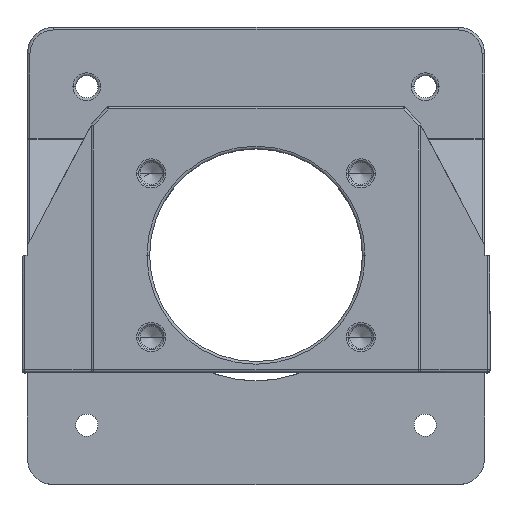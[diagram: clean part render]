
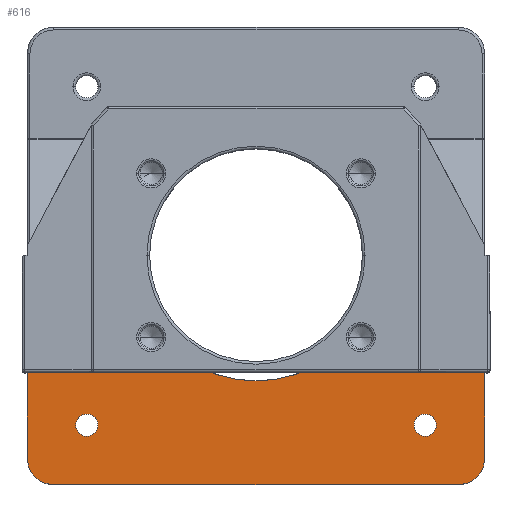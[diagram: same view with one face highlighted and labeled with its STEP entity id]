
A CAD part, top view. The second image highlights one B-rep face of the part: STEP entity #616.
In plain terms, the highlighted planar face has unit normal (0, 0, 1).
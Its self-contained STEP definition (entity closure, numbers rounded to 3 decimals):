
#142 = VERTEX_POINT ( 'NONE', #4250 ) ;
#171 = CARTESIAN_POINT ( 'NONE',  ( 43.5, -21., 5. ) ) ;
#198 = CARTESIAN_POINT ( 'NONE',  ( 31.82, -31.82, 5. ) ) ;
#214 = AXIS2_PLACEMENT_3D ( 'NONE', #5607, #2277, #6150 ) ;
#237 = CARTESIAN_POINT ( 'NONE',  ( -43., -21., 5. ) ) ;
#312 = DIRECTION ( 'NONE',  ( 0., 0., -1. ) ) ;
#339 = CARTESIAN_POINT ( 'NONE',  ( -29.72, -31.82, 5. ) ) ;
#520 = VERTEX_POINT ( 'NONE', #735 ) ;
#534 = CARTESIAN_POINT ( 'NONE',  ( -44., -22., 5. ) ) ;
#552 = LINE ( 'NONE', #3368, #3509 ) ;
#575 = CIRCLE ( 'NONE', #4833, 2.1 ) ;
#591 = CARTESIAN_POINT ( 'NONE',  ( -43., -21., 5. ) ) ;
#616 = ADVANCED_FACE ( 'NONE', ( #5759, #1514, #2035 ), #2525, .F. ) ;
#667 = ORIENTED_EDGE ( 'NONE', *, *, #6758, .T. ) ;
#692 = CARTESIAN_POINT ( 'NONE',  ( 44., -22., 5. ) ) ;
#735 = CARTESIAN_POINT ( 'NONE',  ( -43., -38., 5. ) ) ;
#771 = DIRECTION ( 'NONE',  ( -1., 0., 0. ) ) ;
#801 = DIRECTION ( 'NONE',  ( 0., 0., -1. ) ) ;
#852 = ORIENTED_EDGE ( 'NONE', *, *, #2451, .T. ) ;
#959 = EDGE_CURVE ( 'NONE', #3287, #6713, #2702, .T. ) ;
#998 = LINE ( 'NONE', #5199, #3770 ) ;
#1064 = VERTEX_POINT ( 'NONE', #3049 ) ;
#1065 = EDGE_CURVE ( 'NONE', #2236, #3932, #4772, .T. ) ;
#1105 = DIRECTION ( 'NONE',  ( 1., 0., 0. ) ) ;
#1205 = ORIENTED_EDGE ( 'NONE', *, *, #5902, .T. ) ;
#1378 = CARTESIAN_POINT ( 'NONE',  ( -43., -43., 5. ) ) ;
#1380 = ORIENTED_EDGE ( 'NONE', *, *, #4895, .T. ) ;
#1404 = CARTESIAN_POINT ( 'NONE',  ( 38., -38., 5. ) ) ;
#1441 = DIRECTION ( 'NONE',  ( 0., 0., -1. ) ) ;
#1514 = FACE_BOUND ( 'NONE', #3248, .T. ) ;
#1727 = VECTOR ( 'NONE', #5800, 1000. ) ;
#1788 = CARTESIAN_POINT ( 'NONE',  ( 43.5, -22., 5. ) ) ;
#1829 = CARTESIAN_POINT ( 'NONE',  ( 10.548, -21., 5. ) ) ;
#1875 = CIRCLE ( 'NONE', #214, 5. ) ;
#1952 = DIRECTION ( 'NONE',  ( -1., 0., 0. ) ) ;
#1968 = VERTEX_POINT ( 'NONE', #3964 ) ;
#2035 = FACE_BOUND ( 'NONE', #4259, .T. ) ;
#2147 = ORIENTED_EDGE ( 'NONE', *, *, #2391, .T. ) ;
#2214 = VECTOR ( 'NONE', #1105, 1000. ) ;
#2232 = VERTEX_POINT ( 'NONE', #6481 ) ;
#2236 = VERTEX_POINT ( 'NONE', #6060 ) ;
#2241 = CARTESIAN_POINT ( 'NONE',  ( -33.92, -31.82, 5. ) ) ;
#2256 = AXIS2_PLACEMENT_3D ( 'NONE', #3659, #312, #4192 ) ;
#2277 = DIRECTION ( 'NONE',  ( 0., 0., 1. ) ) ;
#2320 = ORIENTED_EDGE ( 'NONE', *, *, #7033, .T. ) ;
#2379 = VERTEX_POINT ( 'NONE', #4600 ) ;
#2384 = CARTESIAN_POINT ( 'NONE',  ( 31.82, -31.82, 5. ) ) ;
#2391 = EDGE_CURVE ( 'NONE', #2379, #1968, #3868, .T. ) ;
#2451 = EDGE_CURVE ( 'NONE', #520, #2232, #1875, .T. ) ;
#2495 = ORIENTED_EDGE ( 'NONE', *, *, #7065, .T. ) ;
#2525 = PLANE ( 'NONE',  #2256 ) ;
#2655 = DIRECTION ( 'NONE',  ( 0., 1., 0. ) ) ;
#2674 = ORIENTED_EDGE ( 'NONE', *, *, #3515, .T. ) ;
#2702 = LINE ( 'NONE', #591, #5466 ) ;
#2788 = CARTESIAN_POINT ( 'NONE',  ( -43., -43., 5. ) ) ;
#2855 = ORIENTED_EDGE ( 'NONE', *, *, #3323, .T. ) ;
#2954 = DIRECTION ( 'NONE',  ( -1., 0., 0. ) ) ;
#3025 = VECTOR ( 'NONE', #3046, 1000. ) ;
#3046 = DIRECTION ( 'NONE',  ( 0., 1., 0. ) ) ;
#3049 = CARTESIAN_POINT ( 'NONE',  ( -43.5, -21., 5. ) ) ;
#3248 = EDGE_LOOP ( 'NONE', ( #2674, #1380 ) ) ;
#3287 = VERTEX_POINT ( 'NONE', #1829 ) ;
#3298 = CARTESIAN_POINT ( 'NONE',  ( -31.82, -31.82, 5. ) ) ;
#3323 = EDGE_CURVE ( 'NONE', #5918, #7037, #3814, .T. ) ;
#3368 = CARTESIAN_POINT ( 'NONE',  ( 43.5, -43., 5. ) ) ;
#3509 = VECTOR ( 'NONE', #6109, 1000. ) ;
#3515 = EDGE_CURVE ( 'NONE', #5678, #6440, #7187, .T. ) ;
#3600 = CARTESIAN_POINT ( 'NONE',  ( 29.72, -31.82, 5. ) ) ;
#3659 = CARTESIAN_POINT ( 'NONE',  ( -43., -43., 5. ) ) ;
#3770 = VECTOR ( 'NONE', #5762, 1000. ) ;
#3800 = ORIENTED_EDGE ( 'NONE', *, *, #1065, .T. ) ;
#3814 = CIRCLE ( 'NONE', #6719, 2.1 ) ;
#3844 = DIRECTION ( 'NONE',  ( -1., 0., 0. ) ) ;
#3868 = LINE ( 'NONE', #534, #2214 ) ;
#3932 = VERTEX_POINT ( 'NONE', #4592 ) ;
#3962 = LINE ( 'NONE', #5964, #6728 ) ;
#3964 = CARTESIAN_POINT ( 'NONE',  ( -43., -22., 5. ) ) ;
#3976 = ORIENTED_EDGE ( 'NONE', *, *, #959, .F. ) ;
#4029 = AXIS2_PLACEMENT_3D ( 'NONE', #4125, #801, #4674 ) ;
#4093 = DIRECTION ( 'NONE',  ( 0., 0., -1. ) ) ;
#4125 = CARTESIAN_POINT ( 'NONE',  ( 0., 0., 5. ) ) ;
#4192 = DIRECTION ( 'NONE',  ( -1., 0., 0. ) ) ;
#4250 = CARTESIAN_POINT ( 'NONE',  ( -10.548, -21., 5. ) ) ;
#4259 = EDGE_LOOP ( 'NONE', ( #2855, #5792 ) ) ;
#4344 = AXIS2_PLACEMENT_3D ( 'NONE', #4746, #1441, #5299 ) ;
#4415 = DIRECTION ( 'NONE',  ( 1., 0., 0. ) ) ;
#4457 = DIRECTION ( 'NONE',  ( 1., 0., 0. ) ) ;
#4475 = LINE ( 'NONE', #1378, #3025 ) ;
#4563 = DIRECTION ( 'NONE',  ( -1., 0., 0. ) ) ;
#4592 = CARTESIAN_POINT ( 'NONE',  ( 43., -38., 5. ) ) ;
#4600 = CARTESIAN_POINT ( 'NONE',  ( -43.5, -22., 5. ) ) ;
#4631 = EDGE_CURVE ( 'NONE', #5039, #5143, #6826, .T. ) ;
#4650 = LINE ( 'NONE', #237, #1727 ) ;
#4659 = EDGE_CURVE ( 'NONE', #7037, #5918, #575, .T. ) ;
#4674 = DIRECTION ( 'NONE',  ( -1., 0., 0. ) ) ;
#4677 = CARTESIAN_POINT ( 'NONE',  ( 43., -22., 5. ) ) ;
#4734 = CIRCLE ( 'NONE', #4029, 23.5 ) ;
#4746 = CARTESIAN_POINT ( 'NONE',  ( -31.82, -31.82, 5. ) ) ;
#4772 = CIRCLE ( 'NONE', #6428, 5. ) ;
#4798 = EDGE_CURVE ( 'NONE', #3932, #5143, #3962, .T. ) ;
#4833 = AXIS2_PLACEMENT_3D ( 'NONE', #2384, #6244, #2954 ) ;
#4895 = EDGE_CURVE ( 'NONE', #6440, #5678, #5081, .T. ) ;
#4980 = VECTOR ( 'NONE', #4415, 1000. ) ;
#5039 = VERTEX_POINT ( 'NONE', #1788 ) ;
#5081 = CIRCLE ( 'NONE', #5807, 2.1 ) ;
#5143 = VERTEX_POINT ( 'NONE', #4677 ) ;
#5146 = EDGE_CURVE ( 'NONE', #1064, #142, #4650, .T. ) ;
#5167 = EDGE_CURVE ( 'NONE', #520, #1968, #4475, .T. ) ;
#5171 = VECTOR ( 'NONE', #4563, 1000. ) ;
#5199 = CARTESIAN_POINT ( 'NONE',  ( -43.5, -43., 5. ) ) ;
#5264 = ORIENTED_EDGE ( 'NONE', *, *, #4798, .T. ) ;
#5265 = DIRECTION ( 'NONE',  ( 0., 0., 1. ) ) ;
#5299 = DIRECTION ( 'NONE',  ( -1., 0., 0. ) ) ;
#5466 = VECTOR ( 'NONE', #4457, 1000. ) ;
#5607 = CARTESIAN_POINT ( 'NONE',  ( -38., -38., 5. ) ) ;
#5678 = VERTEX_POINT ( 'NONE', #2241 ) ;
#5759 = FACE_OUTER_BOUND ( 'NONE', #6317, .T. ) ;
#5762 = DIRECTION ( 'NONE',  ( 0., -1., 0. ) ) ;
#5792 = ORIENTED_EDGE ( 'NONE', *, *, #4659, .T. ) ;
#5800 = DIRECTION ( 'NONE',  ( 1., 0., 0. ) ) ;
#5807 = AXIS2_PLACEMENT_3D ( 'NONE', #3298, #7159, #3844 ) ;
#5902 = EDGE_CURVE ( 'NONE', #3287, #142, #4734, .T. ) ;
#5918 = VERTEX_POINT ( 'NONE', #3600 ) ;
#5964 = CARTESIAN_POINT ( 'NONE',  ( 43., -43., 5. ) ) ;
#6060 = CARTESIAN_POINT ( 'NONE',  ( 38., -43., 5. ) ) ;
#6082 = CARTESIAN_POINT ( 'NONE',  ( 33.92, -31.82, 5. ) ) ;
#6109 = DIRECTION ( 'NONE',  ( 0., 1., 0. ) ) ;
#6150 = DIRECTION ( 'NONE',  ( -1., 0., 0. ) ) ;
#6244 = DIRECTION ( 'NONE',  ( 0., 0., -1. ) ) ;
#6317 = EDGE_LOOP ( 'NONE', ( #6393, #667, #2147, #6567, #852, #2320, #3800, #5264, #6737, #2495, #3976, #1205 ) ) ;
#6393 = ORIENTED_EDGE ( 'NONE', *, *, #5146, .F. ) ;
#6428 = AXIS2_PLACEMENT_3D ( 'NONE', #1404, #5265, #1952 ) ;
#6440 = VERTEX_POINT ( 'NONE', #339 ) ;
#6481 = CARTESIAN_POINT ( 'NONE',  ( -38., -43., 5. ) ) ;
#6567 = ORIENTED_EDGE ( 'NONE', *, *, #5167, .F. ) ;
#6628 = LINE ( 'NONE', #2788, #4980 ) ;
#6713 = VERTEX_POINT ( 'NONE', #171 ) ;
#6719 = AXIS2_PLACEMENT_3D ( 'NONE', #198, #4093, #771 ) ;
#6728 = VECTOR ( 'NONE', #2655, 1000. ) ;
#6737 = ORIENTED_EDGE ( 'NONE', *, *, #4631, .F. ) ;
#6758 = EDGE_CURVE ( 'NONE', #1064, #2379, #998, .T. ) ;
#6826 = LINE ( 'NONE', #692, #5171 ) ;
#7033 = EDGE_CURVE ( 'NONE', #2232, #2236, #6628, .T. ) ;
#7037 = VERTEX_POINT ( 'NONE', #6082 ) ;
#7065 = EDGE_CURVE ( 'NONE', #5039, #6713, #552, .T. ) ;
#7159 = DIRECTION ( 'NONE',  ( 0., 0., -1. ) ) ;
#7187 = CIRCLE ( 'NONE', #4344, 2.1 ) ;
